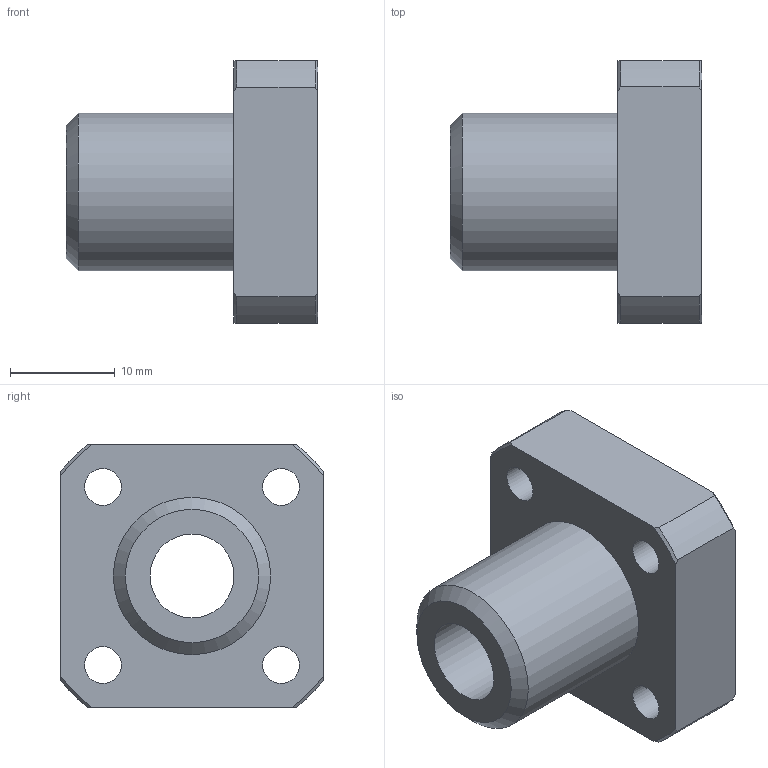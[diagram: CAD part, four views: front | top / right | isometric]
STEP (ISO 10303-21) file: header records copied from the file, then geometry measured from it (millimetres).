
FILE_DESCRIPTION(('STEP AP203'),'1');
FILE_NAME('//192.168.1.1/share/s-4 技術開発/s-4-4_CAD/s-4-4-3_見直し済み/PBC LINEAR修正済み/3D途中/SFPJ/SFPJ/SFPJ08.step','2022-03-24T05:54:24',(' '),(' '),'Spatial InterOp 3D',' ',' ');
FILE_SCHEMA(('CONFIG_CONTROL_DESIGN'));
Length unit declared in the file: millimetre
Products named in the file (1): 1
Bounding box: 24 x 25 x 25 mm (x, y, z)
Volume: 5957.9 mm3; surface area: 3570.4 mm2
Topology: 1 solids, 1 shells, 34 faces, 84 edges, 57 vertices
Faces by surface type: cylinder 14, plane 11, cone 9
Full cylindrical faces by diameter (mm): 3.5 x4, 6 x4, 8 x1, 15 x1
Entity records: 1018 total; most frequent: CARTESIAN_POINT 205, DIRECTION 160, ORIENTED_EDGE 138, AXIS2_PLACEMENT_3D 72, EDGE_CURVE 69, EDGE_LOOP 60, VERTEX_POINT 53, FACE_OUTER_BOUND 44
